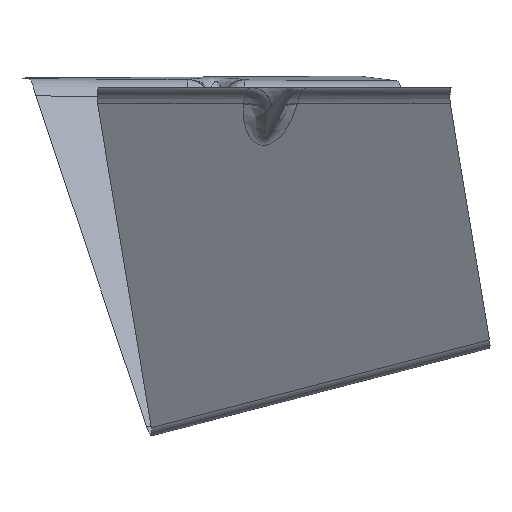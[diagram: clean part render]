
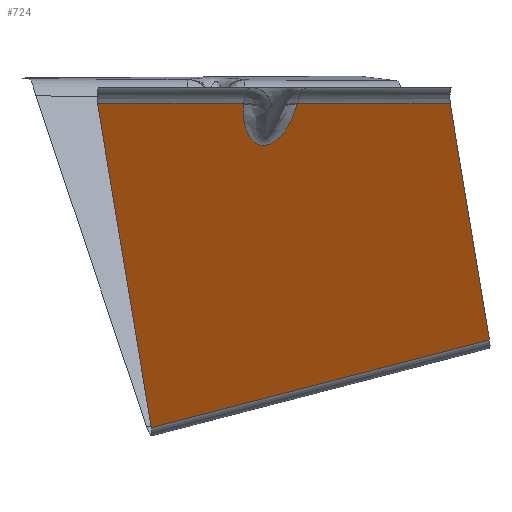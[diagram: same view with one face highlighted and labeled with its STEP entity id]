
A CAD part, left-side view. The second image highlights one B-rep face of the part: STEP entity #724.
In plain terms, the highlighted planar face has unit normal (-0.83, -0.249, -0.5).
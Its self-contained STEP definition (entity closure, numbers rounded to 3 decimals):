
#248=CARTESIAN_POINT('Vertex',(-103.972,8.965,-0.45)) ;
#271=CARTESIAN_POINT('Line Origine',(-81.933,11.554,-38.302)) ;
#275=CARTESIAN_POINT('Vertex',(-103.814,8.984,-0.722)) ;
#612=CARTESIAN_POINT('Control Point',(-99.23,-6.297,-0.722)) ;
#613=CARTESIAN_POINT('Control Point',(-98.768,-6.065,-1.604)) ;
#614=CARTESIAN_POINT('Control Point',(-98.319,-5.793,-2.483)) ;
#615=CARTESIAN_POINT('Control Point',(-97.885,-5.48,-3.359)) ;
#616=CARTESIAN_POINT('Control Point',(-97.104,-4.813,-4.987)) ;
#617=CARTESIAN_POINT('Control Point',(-96.393,-3.967,-6.588)) ;
#618=CARTESIAN_POINT('Control Point',(-96.082,-3.533,-7.32)) ;
#619=CARTESIAN_POINT('Control Point',(-95.674,-2.851,-8.336)) ;
#620=CARTESIAN_POINT('Control Point',(-95.33,-2.039,-9.311)) ;
#621=CARTESIAN_POINT('Control Point',(-95.237,-1.794,-9.587)) ;
#622=CARTESIAN_POINT('Control Point',(-95.025,-1.156,-10.257)) ;
#623=CARTESIAN_POINT('Control Point',(-94.865,-0.425,-10.884)) ;
#624=CARTESIAN_POINT('Control Point',(-94.794,0.05,-11.239)) ;
#625=CARTESIAN_POINT('Control Point',(-94.736,0.857,-11.737)) ;
#626=CARTESIAN_POINT('Control Point',(-94.803,1.787,-12.089)) ;
#627=CARTESIAN_POINT('Control Point',(-94.845,2.128,-12.19)) ;
#628=CARTESIAN_POINT('Control Point',(-94.954,2.728,-12.308)) ;
#629=CARTESIAN_POINT('Control Point',(-95.124,3.332,-12.326)) ;
#630=CARTESIAN_POINT('Control Point',(-95.205,3.579,-12.315)) ;
#631=CARTESIAN_POINT('Control Point',(-95.448,4.231,-12.237)) ;
#632=CARTESIAN_POINT('Control Point',(-95.742,4.82,-12.042)) ;
#633=CARTESIAN_POINT('Control Point',(-95.94,5.16,-11.881)) ;
#634=CARTESIAN_POINT('Control Point',(-96.29,5.688,-11.564)) ;
#635=CARTESIAN_POINT('Control Point',(-96.648,6.135,-11.192)) ;
#636=CARTESIAN_POINT('Control Point',(-96.8,6.311,-11.028)) ;
#637=CARTESIAN_POINT('Control Point',(-97.141,6.679,-10.646)) ;
#638=CARTESIAN_POINT('Control Point',(-97.481,6.995,-10.239)) ;
#639=CARTESIAN_POINT('Control Point',(-97.669,7.157,-10.007)) ;
#640=CARTESIAN_POINT('Control Point',(-98.09,7.492,-9.476)) ;
#641=CARTESIAN_POINT('Control Point',(-98.506,7.772,-8.925)) ;
#642=CARTESIAN_POINT('Control Point',(-98.736,7.913,-8.614)) ;
#643=CARTESIAN_POINT('Control Point',(-99.245,8.197,-7.91)) ;
#644=CARTESIAN_POINT('Control Point',(-99.746,8.422,-7.192)) ;
#645=CARTESIAN_POINT('Control Point',(-100.02,8.53,-6.79)) ;
#646=CARTESIAN_POINT('Control Point',(-100.982,8.861,-5.359)) ;
#647=CARTESIAN_POINT('Control Point',(-101.911,9.023,-3.899)) ;
#648=CARTESIAN_POINT('Control Point',(-102.56,9.071,-2.846)) ;
#649=CARTESIAN_POINT('Control Point',(-103.195,9.057,-1.786)) ;
#650=CARTESIAN_POINT('Control Point',(-103.814,8.984,-0.722)) ;
#651=CARTESIAN_POINT('Vertex',(-99.23,-6.297,-0.722)) ;
#669=CARTESIAN_POINT('Axis2P3D Location',(-45.906,-13.772,-85.465)) ;
#674=CARTESIAN_POINT('Line Origine',(-99.301,-6.333,-0.586)) ;
#678=CARTESIAN_POINT('Vertex',(-99.372,-6.369,-0.45)) ;
#681=CARTESIAN_POINT('Line Origine',(-110.177,29.649,-0.45)) ;
#685=CARTESIAN_POINT('Vertex',(-116.382,50.332,-0.45)) ;
#688=CARTESIAN_POINT('Line Origine',(-86.405,42.711,-46.39)) ;
#692=CARTESIAN_POINT('Vertex',(-56.427,35.089,-92.329)) ;
#695=CARTESIAN_POINT('Line Origine',(-49.547,-12.846,-79.887)) ;
#699=CARTESIAN_POINT('Vertex',(-42.666,-60.782,-67.444)) ;
#702=CARTESIAN_POINT('Line Origine',(-64.524,-55.225,-33.947)) ;
#706=CARTESIAN_POINT('Vertex',(-86.382,-49.668,-0.45)) ;
#709=CARTESIAN_POINT('Line Origine',(-92.877,-28.018,-0.45)) ;
#272=DIRECTION('Vector Direction',(0.502,0.059,-0.863)) ;
#670=DIRECTION('Axis2P3D Direction',(0.83,0.249,0.5)) ;
#671=DIRECTION('Axis2P3D XDirection',(0.541,-0.138,-0.83)) ;
#675=DIRECTION('Vector Direction',(-0.452,-0.227,0.863)) ;
#682=DIRECTION('Vector Direction',(0.287,-0.958,0.)) ;
#689=DIRECTION('Vector Direction',(0.541,-0.138,-0.83)) ;
#696=DIRECTION('Vector Direction',(0.138,-0.959,0.249)) ;
#703=DIRECTION('Vector Direction',(-0.541,0.138,0.83)) ;
#710=DIRECTION('Vector Direction',(0.287,-0.958,0.)) ;
#672=AXIS2_PLACEMENT_3D('Plane Axis2P3D',#669,#670,#671) ;
#715=ORIENTED_EDGE('',*,*,#680,.T.) ;
#716=ORIENTED_EDGE('',*,*,#653,.T.) ;
#717=ORIENTED_EDGE('',*,*,#277,.T.) ;
#718=ORIENTED_EDGE('',*,*,#687,.F.) ;
#719=ORIENTED_EDGE('',*,*,#694,.T.) ;
#720=ORIENTED_EDGE('',*,*,#701,.T.) ;
#721=ORIENTED_EDGE('',*,*,#708,.T.) ;
#722=ORIENTED_EDGE('',*,*,#713,.F.) ;
#273=VECTOR('Line Direction',#272,1.) ;
#676=VECTOR('Line Direction',#675,1.) ;
#683=VECTOR('Line Direction',#682,1.) ;
#690=VECTOR('Line Direction',#689,1.) ;
#697=VECTOR('Line Direction',#696,1.) ;
#704=VECTOR('Line Direction',#703,1.) ;
#711=VECTOR('Line Direction',#710,1.) ;
#724=ADVANCED_FACE('Extract.1',(#723),#673,.F.) ;
#611=B_SPLINE_CURVE_WITH_KNOTS('',5,(#612,#613,#614,#615,#616,#617,#618,#619,#620,#621,#622,#623,#624,#625,#626,#627,#628,#629,#630,#631,#632,#633,#634,#635,#636,#637,#638,#639,#640,#641,#642,#643,#644,#645,#646,#647,#648,#649,#650),.UNSPECIFIED.,.F.,.U.,(6,3,3,3,3,3,3,3,3,3,3,3,6),(28.359,35.137,41.019,43.388,46.884,48.771,50.102,52.383,54.047,56.12,58.718,61.93,70.108),.UNSPECIFIED.) ;
#277=EDGE_CURVE('',#276,#249,#274,.F.) ;
#653=EDGE_CURVE('',#652,#276,#611,.T.) ;
#680=EDGE_CURVE('',#679,#652,#677,.F.) ;
#687=EDGE_CURVE('',#686,#249,#684,.T.) ;
#694=EDGE_CURVE('',#686,#693,#691,.T.) ;
#701=EDGE_CURVE('',#693,#700,#698,.T.) ;
#708=EDGE_CURVE('',#700,#707,#705,.T.) ;
#713=EDGE_CURVE('',#679,#707,#712,.T.) ;
#714=EDGE_LOOP('',(#715,#716,#717,#718,#719,#720,#721,#722)) ;
#723=FACE_OUTER_BOUND('',#714,.T.) ;
#274=LINE('Line',#271,#273) ;
#677=LINE('Line',#674,#676) ;
#684=LINE('Line',#681,#683) ;
#691=LINE('Line',#688,#690) ;
#698=LINE('Line',#695,#697) ;
#705=LINE('Line',#702,#704) ;
#712=LINE('Line',#709,#711) ;
#673=PLANE('',#672) ;
#249=VERTEX_POINT('',#248) ;
#276=VERTEX_POINT('',#275) ;
#652=VERTEX_POINT('',#651) ;
#679=VERTEX_POINT('',#678) ;
#686=VERTEX_POINT('',#685) ;
#693=VERTEX_POINT('',#692) ;
#700=VERTEX_POINT('',#699) ;
#707=VERTEX_POINT('',#706) ;
